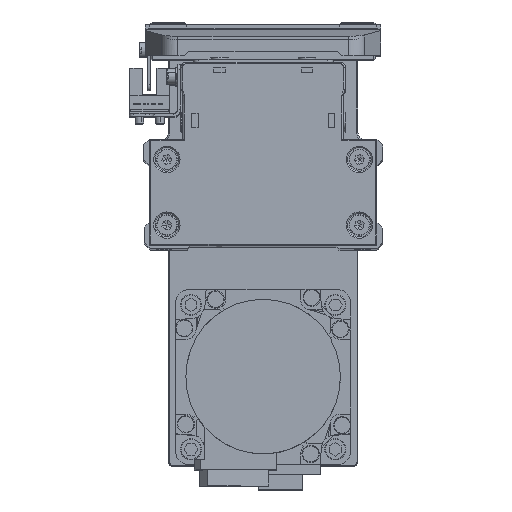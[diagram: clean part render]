
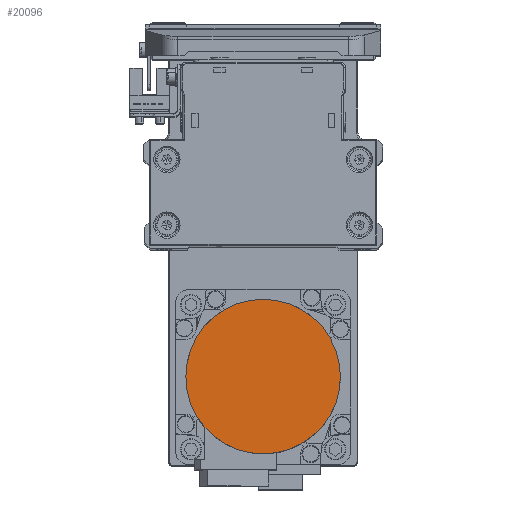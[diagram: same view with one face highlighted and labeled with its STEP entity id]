
A CAD part, top view. The second image highlights one B-rep face of the part: STEP entity #20096.
In plain terms, the highlighted planar face has unit normal (0, 0, 1) as drawn and (0, 0, -1) by its records, which use the part's own axes.
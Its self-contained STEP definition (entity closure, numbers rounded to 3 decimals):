
#1235 = DIRECTION ( 'NONE',  ( -1., 0., 0. ) ) ;
#1487 = AXIS2_PLACEMENT_3D ( 'NONE', #12322, #24796, #37265 ) ;
#1766 = DIRECTION ( 'NONE',  ( 1., 0., 0. ) ) ;
#4829 = PLANE ( 'NONE',  #26921 ) ;
#9303 = CARTESIAN_POINT ( 'NONE',  ( 26.5, 0., -109.7 ) ) ;
#10634 = CIRCLE ( 'NONE', #33507, 26.5 ) ;
#12322 = CARTESIAN_POINT ( 'NONE',  ( 0., 0., -109.7 ) ) ;
#16795 = CARTESIAN_POINT ( 'NONE',  ( 0., 0., -109.7 ) ) ;
#17309 = CARTESIAN_POINT ( 'NONE',  ( 0., 0., -109.7 ) ) ;
#19119 = CIRCLE ( 'NONE', #1487, 26.5 ) ;
#20096 = ADVANCED_FACE ( 'NONE', ( #32860 ), #4829, .F. ) ;
#22387 = EDGE_LOOP ( 'NONE', ( #29884, #37508 ) ) ;
#23733 = EDGE_CURVE ( 'NONE', #33607, #28516, #10634, .T. ) ;
#24776 = CARTESIAN_POINT ( 'NONE',  ( -26.5, 0., -109.7 ) ) ;
#24796 = DIRECTION ( 'NONE',  ( 0., 0., 1. ) ) ;
#25197 = EDGE_CURVE ( 'NONE', #28516, #33607, #19119, .T. ) ;
#26921 = AXIS2_PLACEMENT_3D ( 'NONE', #17309, #29802, #1766 ) ;
#28516 = VERTEX_POINT ( 'NONE', #9303 ) ;
#29275 = DIRECTION ( 'NONE',  ( 0., 0., 1. ) ) ;
#29802 = DIRECTION ( 'NONE',  ( 0., 0., 1. ) ) ;
#29884 = ORIENTED_EDGE ( 'NONE', *, *, #23733, .F. ) ;
#32860 = FACE_OUTER_BOUND ( 'NONE', #22387, .T. ) ;
#33507 = AXIS2_PLACEMENT_3D ( 'NONE', #16795, #29275, #1235 ) ;
#33607 = VERTEX_POINT ( 'NONE', #24776 ) ;
#37265 = DIRECTION ( 'NONE',  ( 1., 0., 0. ) ) ;
#37508 = ORIENTED_EDGE ( 'NONE', *, *, #25197, .F. ) ;
